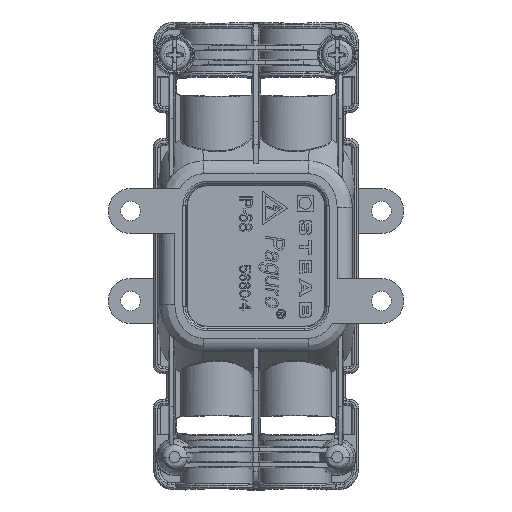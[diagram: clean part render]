
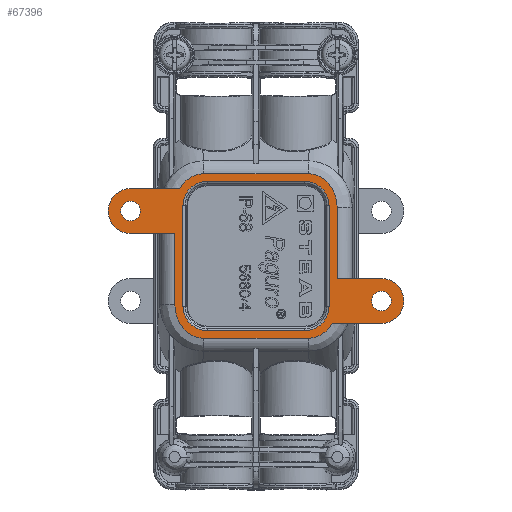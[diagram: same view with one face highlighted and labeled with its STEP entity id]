
A CAD part, front view. The second image highlights one B-rep face of the part: STEP entity #67396.
In plain terms, the highlighted planar face has unit normal (0, -1, 0).
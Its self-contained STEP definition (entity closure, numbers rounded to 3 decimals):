
#7844=DIRECTION('',(1.,0.,0.));
#7845=VECTOR('',#7844,27.823);
#7846=CARTESIAN_POINT('',(-13.911,-16.,-21.953));
#7847=LINE('',#7846,#7845);
#13829=DIRECTION('',(-1.,0.,0.));
#13830=VECTOR('',#13829,27.823);
#13831=CARTESIAN_POINT('',(13.911,-16.,21.953));
#13832=LINE('',#13831,#13830);
#14457=DIRECTION('',(0.,0.,1.));
#14458=VECTOR('',#14457,19.038);
#14459=CARTESIAN_POINT('',(21.651,-16.,-6.));
#14460=LINE('',#14459,#14458);
#14485=DIRECTION('',(1.,0.,0.));
#14486=VECTOR('',#14485,11.849);
#14487=CARTESIAN_POINT('',(21.651,-16.,-6.));
#14488=LINE('',#14487,#14486);
#14498=CARTESIAN_POINT('',(33.5,-16.,-12.));
#14499=DIRECTION('',(0.,1.,0.));
#14500=DIRECTION('',(0.,0.,1.));
#14501=AXIS2_PLACEMENT_3D('',#14498,#14499,#14500);
#14503=CARTESIAN_POINT('',(20.365,-16.,-18.));
#14504=CARTESIAN_POINT('',(19.696,-16.,-19.164));
#14505=CARTESIAN_POINT('',(17.831,-16.,
-21.18));
#14506=CARTESIAN_POINT('',(15.222,-16.,-21.953));
#14507=CARTESIAN_POINT('',(13.911,-16.,-21.953));
#14509=CARTESIAN_POINT('',(-13.911,-16.,-21.953));
#14510=CARTESIAN_POINT('',(-14.985,-16.,-21.953));
#14511=CARTESIAN_POINT('',(-17.127,-16.,-21.442));
#14512=CARTESIAN_POINT('',(-20.566,-16.,-18.632));
#14513=CARTESIAN_POINT('',(-21.651,-16.,-15.267));
#14514=CARTESIAN_POINT('',(-21.651,-16.,-13.038));
#14516=CARTESIAN_POINT('',(-33.5,-16.,12.));
#14517=DIRECTION('',(0.,1.,0.));
#14518=DIRECTION('',(0.,0.,-1.));
#14519=AXIS2_PLACEMENT_3D('',#14516,#14517,#14518);
#14521=CARTESIAN_POINT('',(-20.365,-16.,18.));
#14522=CARTESIAN_POINT('',(-19.696,-16.,19.164));
#14523=CARTESIAN_POINT('',(-17.831,-16.,
21.18));
#14524=CARTESIAN_POINT('',(-15.222,-16.,21.953));
#14525=CARTESIAN_POINT('',(-13.911,-16.,21.953));
#14527=CARTESIAN_POINT('',(13.911,-16.,21.953));
#14528=CARTESIAN_POINT('',(14.985,-16.,21.953));
#14529=CARTESIAN_POINT('',(17.127,-16.,21.442));
#14530=CARTESIAN_POINT('',(20.566,-16.,18.632));
#14531=CARTESIAN_POINT('',(21.651,-16.,15.267));
#14532=CARTESIAN_POINT('',(21.651,-16.,13.038));
#14534=CARTESIAN_POINT('',(-33.5,-16.,12.));
#14535=DIRECTION('',(0.,-1.,0.));
#14536=DIRECTION('',(0.,0.,1.));
#14537=AXIS2_PLACEMENT_3D('',#14534,#14535,#14536);
#14539=CARTESIAN_POINT('',(-33.5,-16.,12.));
#14540=DIRECTION('',(0.,-1.,0.));
#14541=DIRECTION('',(0.,0.,-1.));
#14542=AXIS2_PLACEMENT_3D('',#14539,#14540,#14541);
#14544=CARTESIAN_POINT('',(13.,-16.,13.5));
#14545=DIRECTION('',(0.,-1.,0.));
#14546=DIRECTION('',(1.,0.,0.));
#14547=AXIS2_PLACEMENT_3D('',#14544,#14545,#14546);
#14549=CARTESIAN_POINT('',(-13.,-16.,13.5));
#14550=DIRECTION('',(0.,-1.,0.));
#14551=DIRECTION('',(0.,0.,1.));
#14552=AXIS2_PLACEMENT_3D('',#14549,#14550,#14551);
#14554=CARTESIAN_POINT('',(-13.,-16.,-13.5));
#14555=DIRECTION('',(0.,-1.,0.));
#14556=DIRECTION('',(-1.,0.,0.));
#14557=AXIS2_PLACEMENT_3D('',#14554,#14555,#14556);
#14559=CARTESIAN_POINT('',(13.,-16.,-13.5));
#14560=DIRECTION('',(0.,-1.,0.));
#14561=DIRECTION('',(0.,0.,-1.));
#14562=AXIS2_PLACEMENT_3D('',#14559,#14560,#14561);
#14564=CARTESIAN_POINT('',(33.5,-16.,-12.));
#14565=DIRECTION('',(0.,-1.,0.));
#14566=DIRECTION('',(0.,0.,-1.));
#14567=AXIS2_PLACEMENT_3D('',#14564,#14565,#14566);
#14569=CARTESIAN_POINT('',(33.5,-16.,-12.));
#14570=DIRECTION('',(0.,-1.,0.));
#14571=DIRECTION('',(0.,0.,1.));
#14572=AXIS2_PLACEMENT_3D('',#14569,#14570,#14571);
#14586=DIRECTION('',(-1.,0.,0.));
#14587=VECTOR('',#14586,13.135);
#14588=CARTESIAN_POINT('',(33.5,-16.,-18.));
#14589=LINE('',#14588,#14587);
#14618=DIRECTION('',(0.,0.,-1.));
#14619=VECTOR('',#14618,19.038);
#14620=CARTESIAN_POINT('',(-21.651,-16.,6.));
#14621=LINE('',#14620,#14619);
#14691=DIRECTION('',(1.,0.,0.));
#14692=VECTOR('',#14691,13.135);
#14693=CARTESIAN_POINT('',(-33.5,-16.,18.));
#14694=LINE('',#14693,#14692);
#14719=DIRECTION('',(-1.,0.,0.));
#14720=VECTOR('',#14719,11.849);
#14721=CARTESIAN_POINT('',(-21.651,-16.,6.));
#14722=LINE('',#14721,#14720);
#15960=DIRECTION('',(0.,0.,-1.));
#15961=VECTOR('',#15960,27.);
#15962=CARTESIAN_POINT('',(19.5,-16.,13.5));
#15963=LINE('',#15962,#15961);
#15983=DIRECTION('',(-1.,0.,0.));
#15984=VECTOR('',#15983,26.);
#15985=CARTESIAN_POINT('',(13.,-16.,-20.));
#15986=LINE('',#15985,#15984);
#16006=DIRECTION('',(0.,0.,1.));
#16007=VECTOR('',#16006,27.);
#16008=CARTESIAN_POINT('',(-19.5,-16.,-13.5));
#16009=LINE('',#16008,#16007);
#16029=DIRECTION('',(1.,0.,0.));
#16030=VECTOR('',#16029,26.);
#16031=CARTESIAN_POINT('',(-13.,-16.,20.));
#16032=LINE('',#16031,#16030);
#41080=CARTESIAN_POINT('',(-13.911,-16.,-21.953));
#41081=VERTEX_POINT('',#41080);
#41082=CARTESIAN_POINT('',(13.911,-16.,-21.953));
#41083=VERTEX_POINT('',#41082);
#41084=CARTESIAN_POINT('',(-21.651,-16.,-13.038));
#41085=VERTEX_POINT('',#41084);
#41086=CARTESIAN_POINT('',(-21.651,-16.,6.));
#41087=VERTEX_POINT('',#41086);
#41092=CARTESIAN_POINT('',(21.651,-16.,-6.));
#41093=CARTESIAN_POINT('',(33.5,-16.,-6.));
#41094=VERTEX_POINT('',#41092);
#41095=VERTEX_POINT('',#41093);
#41096=CARTESIAN_POINT('',(21.651,-16.,13.038));
#41097=VERTEX_POINT('',#41096);
#41098=VERTEX_POINT('',#14527);
#41099=CARTESIAN_POINT('',(-13.911,-16.,21.953));
#41100=VERTEX_POINT('',#41099);
#41101=VERTEX_POINT('',#14521);
#41102=CARTESIAN_POINT('',(-33.5,-16.,18.));
#41103=VERTEX_POINT('',#41102);
#41104=CARTESIAN_POINT('',(-33.5,-16.,6.));
#41105=VERTEX_POINT('',#41104);
#41106=VERTEX_POINT('',#14503);
#41107=CARTESIAN_POINT('',(33.5,-16.,-18.));
#41108=VERTEX_POINT('',#41107);
#41109=CARTESIAN_POINT('',(-33.5,-16.,14.6));
#41110=CARTESIAN_POINT('',(-33.5,-16.,9.4));
#41111=VERTEX_POINT('',#41109);
#41112=VERTEX_POINT('',#41110);
#41113=CARTESIAN_POINT('',(19.5,-16.,13.5));
#41114=CARTESIAN_POINT('',(19.5,-16.,-13.5));
#41115=VERTEX_POINT('',#41113);
#41116=VERTEX_POINT('',#41114);
#41117=CARTESIAN_POINT('',(13.,-16.,-20.));
#41118=VERTEX_POINT('',#41117);
#41119=CARTESIAN_POINT('',(-13.,-16.,-20.));
#41120=VERTEX_POINT('',#41119);
#41121=CARTESIAN_POINT('',(-19.5,-16.,-13.5));
#41122=VERTEX_POINT('',#41121);
#41123=CARTESIAN_POINT('',(-19.5,-16.,13.5));
#41124=VERTEX_POINT('',#41123);
#41125=CARTESIAN_POINT('',(-13.,-16.,20.));
#41126=VERTEX_POINT('',#41125);
#41127=CARTESIAN_POINT('',(13.,-16.,20.));
#41128=VERTEX_POINT('',#41127);
#41129=CARTESIAN_POINT('',(33.5,-16.,-14.6));
#41130=CARTESIAN_POINT('',(33.5,-16.,-9.4));
#41131=VERTEX_POINT('',#41129);
#41132=VERTEX_POINT('',#41130);
#67336=CARTESIAN_POINT('',(0.,-16.,0.));
#67337=DIRECTION('',(0.,1.,0.));
#67338=DIRECTION('',(1.,0.,0.));
#67339=AXIS2_PLACEMENT_3D('',#67336,#67337,#67338);
#67340=PLANE('',#67339);
#67341=ORIENTED_EDGE('',*,*,#67327,.T.);
#67343=ORIENTED_EDGE('',*,*,#67342,.T.);
#67345=ORIENTED_EDGE('',*,*,#67344,.T.);
#67347=ORIENTED_EDGE('',*,*,#67346,.T.);
#67348=ORIENTED_EDGE('',*,*,#58173,.F.);
#67350=ORIENTED_EDGE('',*,*,#67349,.T.);
#67352=ORIENTED_EDGE('',*,*,#67351,.F.);
#67354=ORIENTED_EDGE('',*,*,#67353,.T.);
#67356=ORIENTED_EDGE('',*,*,#67355,.T.);
#67358=ORIENTED_EDGE('',*,*,#67357,.T.);
#67360=ORIENTED_EDGE('',*,*,#67359,.T.);
#67361=ORIENTED_EDGE('',*,*,#66237,.F.);
#67362=ORIENTED_EDGE('',*,*,#67274,.T.);
#67363=ORIENTED_EDGE('',*,*,#67289,.F.);
#67364=EDGE_LOOP('',(#67341,#67343,#67345,#67347,#67348,#67350,#67352,#67354,
#67356,#67358,#67360,#67361,#67362,#67363));
#67365=FACE_OUTER_BOUND('',#67364,.F.);
#67367=ORIENTED_EDGE('',*,*,#67366,.T.);
#67369=ORIENTED_EDGE('',*,*,#67368,.T.);
#67370=EDGE_LOOP('',(#67367,#67369));
#67371=FACE_BOUND('',#67370,.F.);
#67373=ORIENTED_EDGE('',*,*,#67372,.F.);
#67375=ORIENTED_EDGE('',*,*,#67374,.T.);
#67377=ORIENTED_EDGE('',*,*,#67376,.F.);
#67379=ORIENTED_EDGE('',*,*,#67378,.T.);
#67381=ORIENTED_EDGE('',*,*,#67380,.F.);
#67383=ORIENTED_EDGE('',*,*,#67382,.T.);
#67385=ORIENTED_EDGE('',*,*,#67384,.F.);
#67387=ORIENTED_EDGE('',*,*,#67386,.T.);
#67388=EDGE_LOOP('',(#67373,#67375,#67377,#67379,#67381,#67383,#67385,#67387));
#67389=FACE_BOUND('',#67388,.F.);
#67391=ORIENTED_EDGE('',*,*,#67390,.T.);
#67393=ORIENTED_EDGE('',*,*,#67392,.T.);
#67394=EDGE_LOOP('',(#67391,#67393));
#67395=FACE_BOUND('',#67394,.F.);
#14502=CIRCLE('',#14501,6.);
#14508=B_SPLINE_CURVE_WITH_KNOTS('',3,(#14503,#14504,#14505,#14506,#14507),
.UNSPECIFIED.,.F.,.F.,(4,1,4),(0.,0.5,1.),.UNSPECIFIED.);
#14515=B_SPLINE_CURVE_WITH_KNOTS('',3,(#14509,#14510,#14511,#14512,#14513,
#14514),.UNSPECIFIED.,.F.,.F.,(4,1,1,4),(0.,0.25,0.5,1.),.UNSPECIFIED.);
#14520=CIRCLE('',#14519,6.);
#14526=B_SPLINE_CURVE_WITH_KNOTS('',3,(#14521,#14522,#14523,#14524,#14525),
.UNSPECIFIED.,.F.,.F.,(4,1,4),(0.,0.5,1.),.UNSPECIFIED.);
#14533=B_SPLINE_CURVE_WITH_KNOTS('',3,(#14527,#14528,#14529,#14530,#14531,
#14532),.UNSPECIFIED.,.F.,.F.,(4,1,1,4),(0.,0.25,0.5,1.),.UNSPECIFIED.);
#14538=CIRCLE('',#14537,2.6);
#14543=CIRCLE('',#14542,2.6);
#14548=CIRCLE('',#14547,6.5);
#14553=CIRCLE('',#14552,6.5);
#14558=CIRCLE('',#14557,6.5);
#14563=CIRCLE('',#14562,6.5);
#14568=CIRCLE('',#14567,2.6);
#14573=CIRCLE('',#14572,2.6);
#58173=EDGE_CURVE('',#41081,#41083,#7847,.T.);
#66237=EDGE_CURVE('',#41098,#41100,#13832,.T.);
#67274=EDGE_CURVE('',#41098,#41097,#14533,.T.);
#67289=EDGE_CURVE('',#41094,#41097,#14460,.T.);
#67327=EDGE_CURVE('',#41094,#41095,#14488,.T.);
#67342=EDGE_CURVE('',#41095,#41108,#14502,.T.);
#67344=EDGE_CURVE('',#41108,#41106,#14589,.T.);
#67346=EDGE_CURVE('',#41106,#41083,#14508,.T.);
#67349=EDGE_CURVE('',#41081,#41085,#14515,.T.);
#67351=EDGE_CURVE('',#41087,#41085,#14621,.T.);
#67353=EDGE_CURVE('',#41087,#41105,#14722,.T.);
#67355=EDGE_CURVE('',#41105,#41103,#14520,.T.);
#67357=EDGE_CURVE('',#41103,#41101,#14694,.T.);
#67359=EDGE_CURVE('',#41101,#41100,#14526,.T.);
#67366=EDGE_CURVE('',#41111,#41112,#14538,.T.);
#67368=EDGE_CURVE('',#41112,#41111,#14543,.T.);
#67372=EDGE_CURVE('',#41115,#41116,#15963,.T.);
#67374=EDGE_CURVE('',#41115,#41128,#14548,.T.);
#67376=EDGE_CURVE('',#41126,#41128,#16032,.T.);
#67378=EDGE_CURVE('',#41126,#41124,#14553,.T.);
#67380=EDGE_CURVE('',#41122,#41124,#16009,.T.);
#67382=EDGE_CURVE('',#41122,#41120,#14558,.T.);
#67384=EDGE_CURVE('',#41118,#41120,#15986,.T.);
#67386=EDGE_CURVE('',#41118,#41116,#14563,.T.);
#67390=EDGE_CURVE('',#41131,#41132,#14568,.T.);
#67392=EDGE_CURVE('',#41132,#41131,#14573,.T.);
#67396=ADVANCED_FACE('',(#67365,#67371,#67389,#67395),#67340,.F.);
